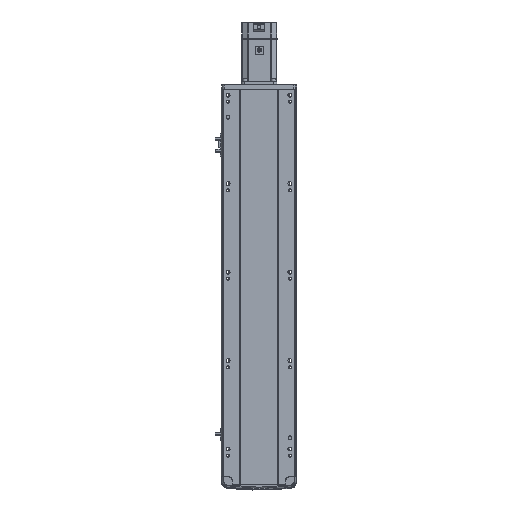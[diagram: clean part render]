
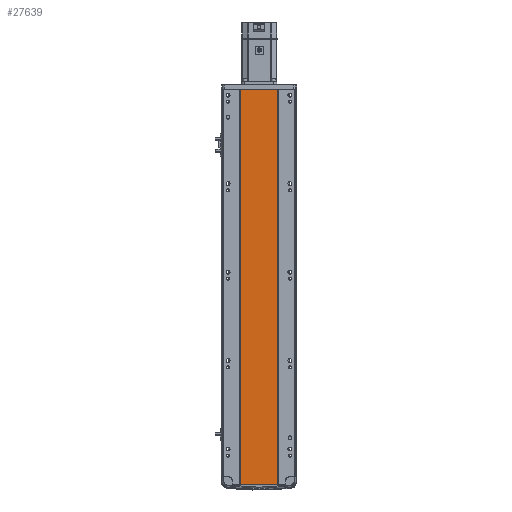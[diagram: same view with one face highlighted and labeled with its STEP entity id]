
A CAD part, front view. The second image highlights one B-rep face of the part: STEP entity #27639.
In plain terms, the highlighted planar face has unit normal (0, -1, 0).
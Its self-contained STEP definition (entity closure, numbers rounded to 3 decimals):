
#1099 = CARTESIAN_POINT ( 'NONE',  ( 0., 0.999, 0. ) ) ;
#1273 = DIRECTION ( 'NONE',  ( 0., 0., -1. ) ) ;
#1451 = DIRECTION ( 'NONE',  ( 1., 0., 0. ) ) ;
#1885 = ORIENTED_EDGE ( 'NONE', *, *, #4029, .F. ) ;
#2212 = LINE ( 'NONE', #40002, #33166 ) ;
#3311 = FACE_OUTER_BOUND ( 'NONE', #12974, .T. ) ;
#4029 = EDGE_CURVE ( 'NONE', #18854, #20252, #10097, .T. ) ;
#5094 = VECTOR ( 'NONE', #36414, 1000. ) ;
#6728 = LINE ( 'NONE', #25316, #47739 ) ;
#7456 = DIRECTION ( 'NONE',  ( -1., 0., 0. ) ) ;
#7481 = CARTESIAN_POINT ( 'NONE',  ( 0., 0.999, 893.5 ) ) ;
#8395 = CARTESIAN_POINT ( 'NONE',  ( 41.793, 0.998, 0. ) ) ;
#10097 = LINE ( 'NONE', #7481, #5094 ) ;
#11109 = VERTEX_POINT ( 'NONE', #20394 ) ;
#12974 = EDGE_LOOP ( 'NONE', ( #30232, #45305, #1885, #40721 ) ) ;
#18029 = VECTOR ( 'NONE', #1451, 1000. ) ;
#18854 = VERTEX_POINT ( 'NONE', #37205 ) ;
#20252 = VERTEX_POINT ( 'NONE', #26662 ) ;
#20394 = CARTESIAN_POINT ( 'NONE',  ( -41.791, 1., 0. ) ) ;
#22991 = EDGE_CURVE ( 'NONE', #18854, #11109, #6728, .T. ) ;
#24155 = DIRECTION ( 'NONE',  ( 0., 0., -1. ) ) ;
#25316 = CARTESIAN_POINT ( 'NONE',  ( -41.791, 1., 893.5 ) ) ;
#26662 = CARTESIAN_POINT ( 'NONE',  ( 41.793, 0.998, 893.5 ) ) ;
#27421 = CARTESIAN_POINT ( 'NONE',  ( 0., 0.999, 893.5 ) ) ;
#27639 = ADVANCED_FACE ( 'NONE', ( #3311 ), #47335, .F. ) ;
#30084 = LINE ( 'NONE', #1099, #18029 ) ;
#30232 = ORIENTED_EDGE ( 'NONE', *, *, #46500, .T. ) ;
#31834 = DIRECTION ( 'NONE',  ( 0., 1., 0. ) ) ;
#33166 = VECTOR ( 'NONE', #24155, 1000. ) ;
#36414 = DIRECTION ( 'NONE',  ( 1., 0., 0. ) ) ;
#36853 = AXIS2_PLACEMENT_3D ( 'NONE', #27421, #31834, #7456 ) ;
#37205 = CARTESIAN_POINT ( 'NONE',  ( -41.791, 1., 893.5 ) ) ;
#37702 = VERTEX_POINT ( 'NONE', #8395 ) ;
#40002 = CARTESIAN_POINT ( 'NONE',  ( 41.793, 0.998, 893.5 ) ) ;
#40472 = EDGE_CURVE ( 'NONE', #20252, #37702, #2212, .T. ) ;
#40721 = ORIENTED_EDGE ( 'NONE', *, *, #22991, .T. ) ;
#45305 = ORIENTED_EDGE ( 'NONE', *, *, #40472, .F. ) ;
#46500 = EDGE_CURVE ( 'NONE', #11109, #37702, #30084, .T. ) ;
#47335 = PLANE ( 'NONE',  #36853 ) ;
#47739 = VECTOR ( 'NONE', #1273, 1000. ) ;
